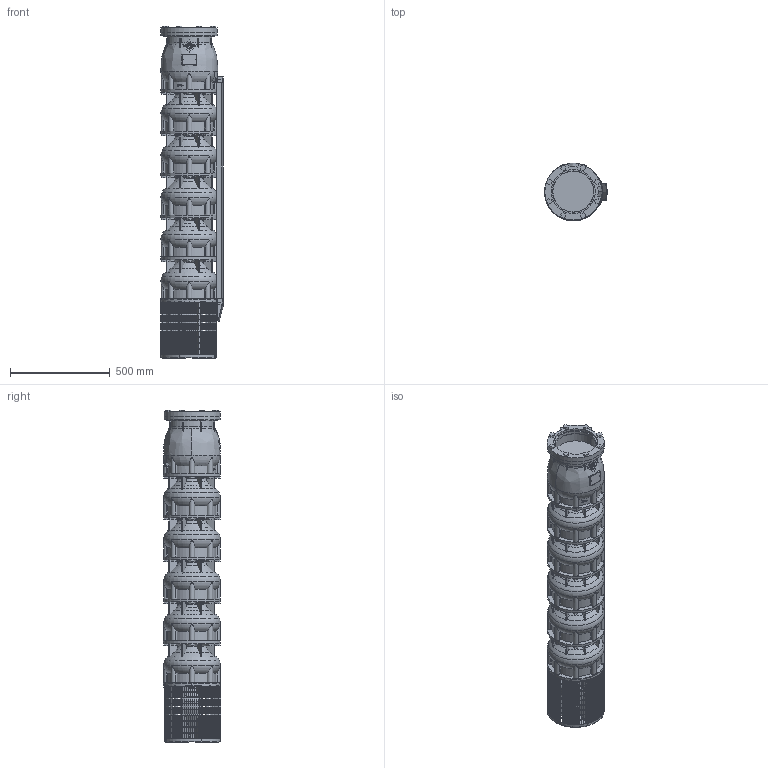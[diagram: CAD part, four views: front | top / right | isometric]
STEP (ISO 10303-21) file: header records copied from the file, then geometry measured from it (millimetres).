
FILE_DESCRIPTION(/* description */ ('-'),/* implementation_level */ '2;1');
FILE_NAME(/* name */ 'VSI344-5_WF_M12-50_DME',/* time_stamp */ '2026-01-21T11:14:54+01:00',/* author */ ('Simonelli M.'),/* organization */ ('Franklin Electric Srl'),/* preprocessor_version */ 'ST-DEVELOPER v18.102',/* originating_system */ 'Solid Edge',/* authorisation */ 'Unknown');
FILE_SCHEMA (('AUTOMOTIVE_DESIGN {1 0 10303 214 3 1 1}'));
Products named in the file (12): VSI344-5_WF_M12-50_DME; VSI344-454_testata; VSI344-454_supporto; VSI344-454_filtro_A; VSI344-454_filtro_B; VSI344-454_terminale_top_copricavo_medio; VSI344-454_terminale_bottom_copricavo_medio; MID 344-5; VSI344_diffusore; M5X8_UNI7687; VSI184-254_giunto_10×12; VSI344-454_flangia_testata
Assembly tree (24 placements, depth 2):
  VSI344-5_WF_M12-50_DME
    VSI344-454_testata
    VSI344-454_supporto
    VSI344-454_filtro_A
    VSI344-454_filtro_B
    VSI344-454_terminale_top_copricavo_medio
    VSI344-454_terminale_bottom_copricavo_medio
    MID 344-5
    VSI344_diffusore  x5
    M5X8_UNI7687  x10
    VSI184-254_giunto_10×12
    VSI344-454_flangia_testata
Bounding box: 314.3 x 286 x 1665 mm (x, y, z)
Volume: 68801868.6 mm3; surface area: 3748060.8 mm2
Topology: 89 solids, 89 shells, 4522 faces, 12724 edges, 8454 vertices
Faces by surface type: plane 3591, cylinder 501, torus 304, cone 101, bspline 15, sphere 10
Full cylindrical faces by diameter (mm): 5 x10, 16 x8, 35 x1, 65 x1, 79 x1, 150 x1, 207 x1, 220.5 x1, 285 x5
Entity records: 124585 total; most frequent: CARTESIAN_POINT 28075, ORIENTED_EDGE 20264, DIRECTION 19366, EDGE_CURVE 10132, VERTEX_POINT 6757, AXIS2_PLACEMENT_3D 6541, LINE 6284, VECTOR 6284
